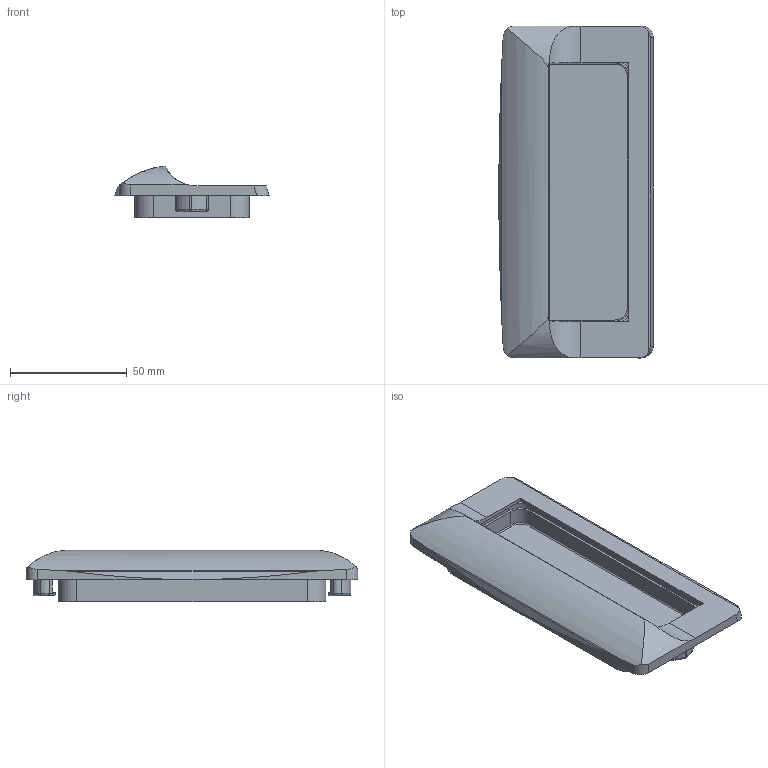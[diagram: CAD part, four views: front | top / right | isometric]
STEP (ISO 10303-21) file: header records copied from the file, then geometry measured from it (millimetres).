
FILE_DESCRIPTION((''),'2;1');
FILE_NAME('C:\Documents and Settings\ryu\바탕 화면\KA-75\1\KA-75-1.stp','2008-07-08T15:16:10',('ryu'),(''),'Autodesk Inventor 2009','Autodesk Inventor 2009','');
FILE_SCHEMA(('AUTOMOTIVE_DESIGN { 1 0 10303 214 1 1 1 1 }'));
Length unit declared in the file: millimetre
Products named in the file (4): KA-75-1; BACK COVER; body; washer
Assembly tree (4 placements, depth 2):
  KA-75-1
    BACK COVER
    body
    washer  x2
Bounding box: 66 x 142 x 22 mm (x, y, z)
Volume: 35925.7 mm3; surface area: 36009.2 mm2
Topology: 4 solids, 4 shells, 172 faces, 449 edges, 291 vertices
Faces by surface type: cylinder 75, plane 71, torus 14, bspline 10, cone 2
Full cylindrical faces by diameter (mm): 4 x1, 4.5 x2, 6 x1, 6.1 x2
Entity records: 5225 total; most frequent: CARTESIAN_POINT 1457, DIRECTION 774, ORIENTED_EDGE 758, EDGE_CURVE 379, AXIS2_PLACEMENT_3D 280, VERTEX_POINT 253, VECTOR 214, LINE 214
